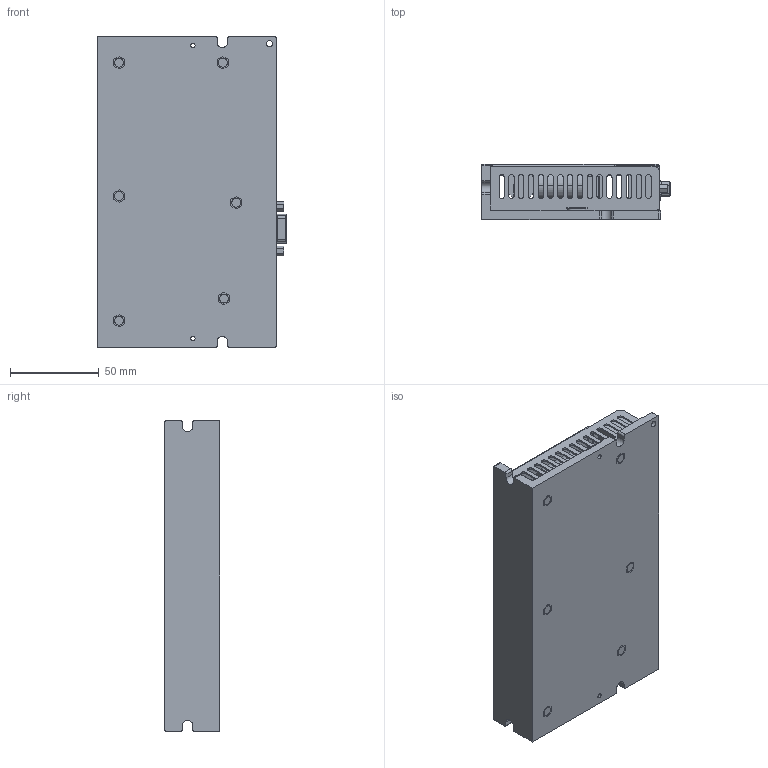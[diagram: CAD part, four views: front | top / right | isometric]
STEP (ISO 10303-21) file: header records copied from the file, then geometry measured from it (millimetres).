
FILE_DESCRIPTION((''),'2;1');
FILE_NAME('000-FD135-EB-AYYED','2024-11-12T14:17:29',('RD0060'),(''),'CREO PARAMETRIC BY PTC INC, 2016510','CREO PARAMETRIC BY PTC INC, 2016510','');
FILE_SCHEMA(('CONFIG_CONTROL_DESIGN'));
Length unit declared in the file: millimetre
Products named in the file (1): 000-FD135-EB-AYYED
Bounding box: 105.93 x 31 x 174.65 mm (x, y, z)
Surface area: 140115.6 mm2 (no closed solid volume)
Topology: 0 solids, 74 shells, 1562 faces, 5130 edges, 3542 vertices
Faces by surface type: plane 1073, cylinder 441, revolution 16, torus 16, extrusion 9, cone 4, bspline 3
Entity records: 57600 total; most frequent: CARTESIAN_POINT 13355, ORIENTED_EDGE 8799, DIRECTION 8645, EDGE_CURVE 5130, VECTOR 3847, LINE 3838, VERTEX_POINT 3542, AXIS2_PLACEMENT_3D 2391
